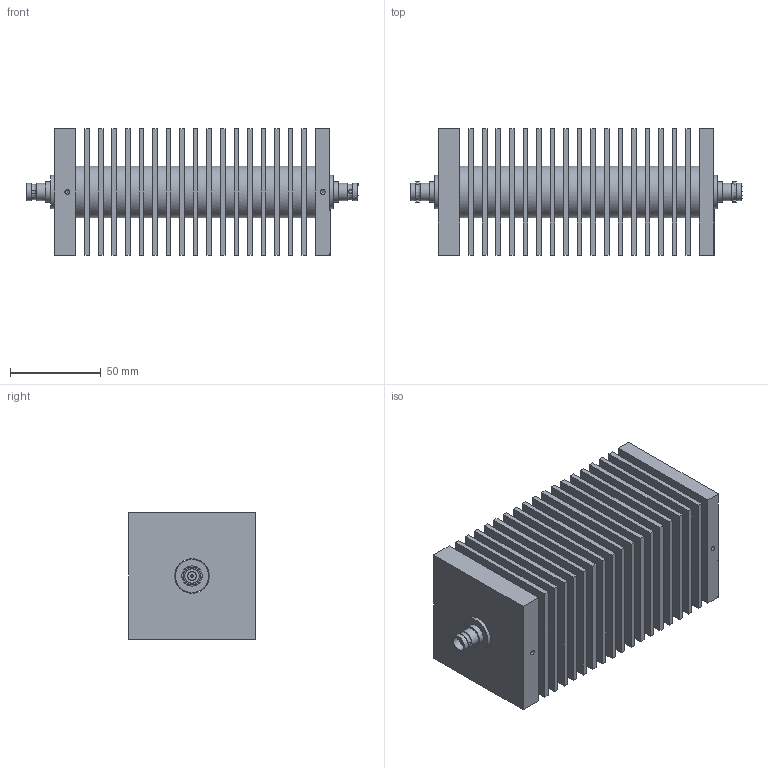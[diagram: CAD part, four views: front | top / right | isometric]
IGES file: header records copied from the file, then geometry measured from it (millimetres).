
Start section: C
Global section: file name: 100-SA-FFB_100W_3D.igs; native system: By Siemens PLM Incorporated; preprocessor: XPlus GENERIC/IGES 19.0.9; author: Author; organization: Title; date: 20170323.093745; units: millimetre
Bounding box: 183.39 x 69.85 x 69.85 mm (x, y, z)
Surface area: 199938.9 mm2 (no closed solid volume)
Topology: 0 solids, 0 shells, 241 faces, 1354 edges, 1347 vertices
Faces by surface type: bspline 241
